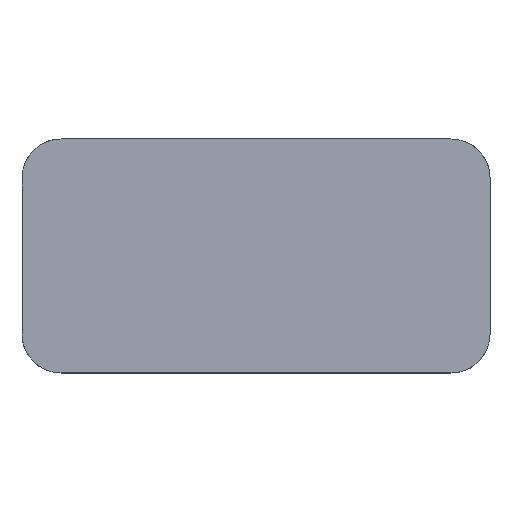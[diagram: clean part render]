
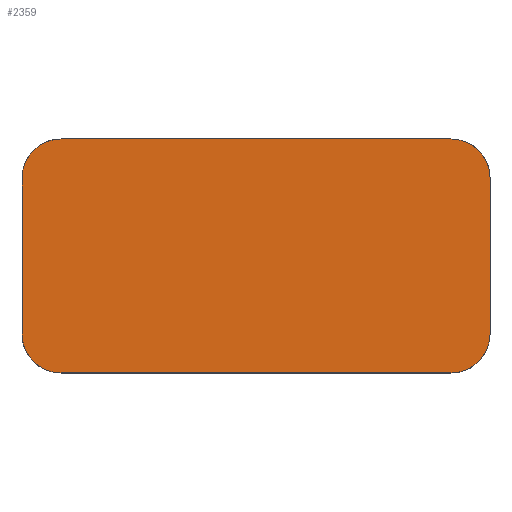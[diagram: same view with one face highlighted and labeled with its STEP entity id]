
A CAD part, top view. The second image highlights one B-rep face of the part: STEP entity #2359.
In plain terms, the highlighted planar face has unit normal (0, 0, 1).
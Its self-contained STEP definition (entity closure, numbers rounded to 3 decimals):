
#4 = LINE ( 'NONE', #1617, #147 ) ;
#40 = ORIENTED_EDGE ( 'NONE', *, *, #2758, .T. ) ;
#41 = CARTESIAN_POINT ( 'NONE',  ( -30., -10., 16. ) ) ;
#105 = CARTESIAN_POINT ( 'NONE',  ( 25., -10., 16. ) ) ;
#147 = VECTOR ( 'NONE', #2231, 1000. ) ;
#210 = VERTEX_POINT ( 'NONE', #538 ) ;
#426 = AXIS2_PLACEMENT_3D ( 'NONE', #105, #1891, #781 ) ;
#455 = CARTESIAN_POINT ( 'NONE',  ( -25., -15., 16. ) ) ;
#508 = CARTESIAN_POINT ( 'NONE',  ( -25., -10., 16. ) ) ;
#527 = CARTESIAN_POINT ( 'NONE',  ( 30., 15., 16. ) ) ;
#538 = CARTESIAN_POINT ( 'NONE',  ( 30., -10., 16. ) ) ;
#542 = EDGE_CURVE ( 'NONE', #928, #2757, #1417, .T. ) ;
#567 = CIRCLE ( 'NONE', #2838, 5. ) ;
#610 = DIRECTION ( 'NONE',  ( 0., 0., 1. ) ) ;
#653 = DIRECTION ( 'NONE',  ( 1., 0., 0. ) ) ;
#679 = EDGE_CURVE ( 'NONE', #1993, #210, #1694, .T. ) ;
#729 = LINE ( 'NONE', #1667, #1134 ) ;
#781 = DIRECTION ( 'NONE',  ( 1., 0., 0. ) ) ;
#795 = EDGE_CURVE ( 'NONE', #2186, #2086, #567, .T. ) ;
#818 = ORIENTED_EDGE ( 'NONE', *, *, #1747, .T. ) ;
#848 = CARTESIAN_POINT ( 'NONE',  ( 25., -15., 16. ) ) ;
#865 = DIRECTION ( 'NONE',  ( 1., 0., 0. ) ) ;
#905 = EDGE_LOOP ( 'NONE', ( #2832, #2407, #954, #1957, #1266, #40, #818, #2143 ) ) ;
#918 = EDGE_CURVE ( 'NONE', #2086, #928, #4, .T. ) ;
#928 = VERTEX_POINT ( 'NONE', #41 ) ;
#954 = ORIENTED_EDGE ( 'NONE', *, *, #1801, .T. ) ;
#1009 = EDGE_CURVE ( 'NONE', #210, #1504, #1403, .T. ) ;
#1022 = AXIS2_PLACEMENT_3D ( 'NONE', #2752, #2274, #2714 ) ;
#1053 = CARTESIAN_POINT ( 'NONE',  ( 25., 15., 16. ) ) ;
#1134 = VECTOR ( 'NONE', #1626, 1000. ) ;
#1202 = PLANE ( 'NONE',  #1022 ) ;
#1266 = ORIENTED_EDGE ( 'NONE', *, *, #1009, .T. ) ;
#1267 = AXIS2_PLACEMENT_3D ( 'NONE', #508, #2273, #865 ) ;
#1349 = CARTESIAN_POINT ( 'NONE',  ( -25., 15., 16. ) ) ;
#1403 = LINE ( 'NONE', #527, #2416 ) ;
#1417 = CIRCLE ( 'NONE', #1267, 5. ) ;
#1424 = DIRECTION ( 'NONE',  ( 0., 1., 0. ) ) ;
#1504 = VERTEX_POINT ( 'NONE', #2333 ) ;
#1572 = VERTEX_POINT ( 'NONE', #1053 ) ;
#1617 = CARTESIAN_POINT ( 'NONE',  ( -30., 15., 16. ) ) ;
#1626 = DIRECTION ( 'NONE',  ( -1., 0., 0. ) ) ;
#1667 = CARTESIAN_POINT ( 'NONE',  ( -30., 15., 16. ) ) ;
#1694 = CIRCLE ( 'NONE', #426, 5. ) ;
#1737 = DIRECTION ( 'NONE',  ( 0., 0., 1. ) ) ;
#1747 = EDGE_CURVE ( 'NONE', #1572, #2186, #729, .T. ) ;
#1759 = CARTESIAN_POINT ( 'NONE',  ( -30., 10., 16. ) ) ;
#1766 = DIRECTION ( 'NONE',  ( 1., 0., 0. ) ) ;
#1801 = EDGE_CURVE ( 'NONE', #2757, #1993, #2695, .T. ) ;
#1891 = DIRECTION ( 'NONE',  ( 0., 0., 1. ) ) ;
#1935 = VECTOR ( 'NONE', #1766, 1000. ) ;
#1957 = ORIENTED_EDGE ( 'NONE', *, *, #679, .T. ) ;
#1979 = CARTESIAN_POINT ( 'NONE',  ( -25., 10., 16. ) ) ;
#1993 = VERTEX_POINT ( 'NONE', #848 ) ;
#2086 = VERTEX_POINT ( 'NONE', #1759 ) ;
#2143 = ORIENTED_EDGE ( 'NONE', *, *, #795, .T. ) ;
#2156 = CARTESIAN_POINT ( 'NONE',  ( -30., -15., 16. ) ) ;
#2186 = VERTEX_POINT ( 'NONE', #1349 ) ;
#2187 = DIRECTION ( 'NONE',  ( 1., 0., 0. ) ) ;
#2231 = DIRECTION ( 'NONE',  ( 0., -1., 0. ) ) ;
#2273 = DIRECTION ( 'NONE',  ( 0., 0., 1. ) ) ;
#2274 = DIRECTION ( 'NONE',  ( 0., 0., 1. ) ) ;
#2333 = CARTESIAN_POINT ( 'NONE',  ( 30., 10., 16. ) ) ;
#2359 = ADVANCED_FACE ( 'NONE', ( #2730 ), #1202, .T. ) ;
#2407 = ORIENTED_EDGE ( 'NONE', *, *, #542, .T. ) ;
#2416 = VECTOR ( 'NONE', #1424, 1000. ) ;
#2695 = LINE ( 'NONE', #2156, #1935 ) ;
#2714 = DIRECTION ( 'NONE',  ( 1., 0., 0. ) ) ;
#2730 = FACE_OUTER_BOUND ( 'NONE', #905, .T. ) ;
#2752 = CARTESIAN_POINT ( 'NONE',  ( -30., -15., 16. ) ) ;
#2757 = VERTEX_POINT ( 'NONE', #455 ) ;
#2758 = EDGE_CURVE ( 'NONE', #1504, #1572, #2872, .T. ) ;
#2821 = AXIS2_PLACEMENT_3D ( 'NONE', #2823, #1737, #2187 ) ;
#2823 = CARTESIAN_POINT ( 'NONE',  ( 25., 10., 16. ) ) ;
#2832 = ORIENTED_EDGE ( 'NONE', *, *, #918, .T. ) ;
#2838 = AXIS2_PLACEMENT_3D ( 'NONE', #1979, #610, #653 ) ;
#2872 = CIRCLE ( 'NONE', #2821, 5. ) ;
